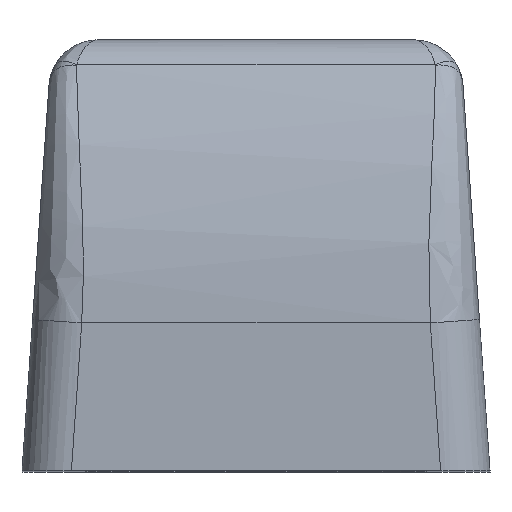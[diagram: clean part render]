
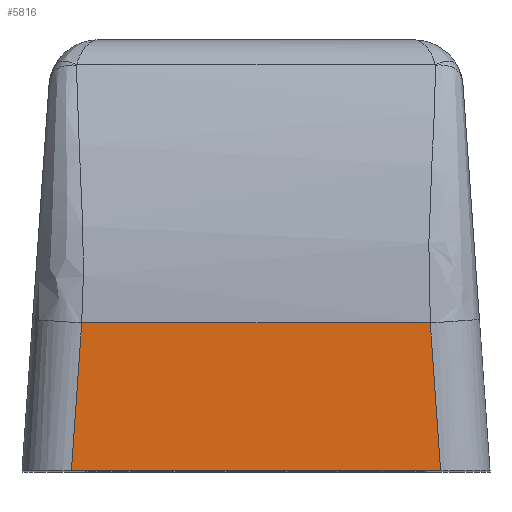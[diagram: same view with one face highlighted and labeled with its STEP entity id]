
A CAD part, top view. The second image highlights one B-rep face of the part: STEP entity #5816.
In plain terms, the highlighted planar face has unit normal (0, 0, 1).
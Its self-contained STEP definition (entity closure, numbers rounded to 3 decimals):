
#25 = EDGE_CURVE ( 'NONE', #2185, #2368, #1929, .T. ) ;
#59 = EDGE_CURVE ( 'NONE', #1502, #2368, #4099, .T. ) ;
#533 = CARTESIAN_POINT ( 'NONE',  ( -14.151, 12., 33. ) ) ;
#547 = VECTOR ( 'NONE', #5533, 1000. ) ;
#842 = EDGE_CURVE ( 'NONE', #1502, #4063, #5304, .T. ) ;
#947 = VECTOR ( 'NONE', #3686, 1000. ) ;
#1095 = CARTESIAN_POINT ( 'NONE',  ( 19., 2., 33. ) ) ;
#1502 = VERTEX_POINT ( 'NONE', #4478 ) ;
#1778 = CARTESIAN_POINT ( 'NONE',  ( 14.711, 4., 33. ) ) ;
#1929 = B_SPLINE_CURVE_WITH_KNOTS ( 'NONE', 3,
 ( #533, #4097, #4139, #4175 ),
 .UNSPECIFIED., .F., .F.,
 ( 4, 4 ),
 ( 0., 0.326 ),
 .UNSPECIFIED. ) ;
#1936 = DIRECTION ( 'NONE',  ( -1., 0., 0. ) ) ;
#2185 = VERTEX_POINT ( 'NONE', #3950 ) ;
#2338 = EDGE_CURVE ( 'NONE', #4063, #2185, #5349, .T. ) ;
#2362 = DIRECTION ( 'NONE',  ( 0., 0., -1. ) ) ;
#2368 = VERTEX_POINT ( 'NONE', #4668 ) ;
#2774 = AXIS2_PLACEMENT_3D ( 'NONE', #1095, #2362, #1936 ) ;
#2775 = CARTESIAN_POINT ( 'NONE',  ( 19., 0., 33. ) ) ;
#3173 = EDGE_LOOP ( 'NONE', ( #4852, #4068, #5242, #3589 ) ) ;
#3295 = CARTESIAN_POINT ( 'NONE',  ( 19., 12., 33. ) ) ;
#3589 = ORIENTED_EDGE ( 'NONE', *, *, #842, .T. ) ;
#3686 = DIRECTION ( 'NONE',  ( -1., 0., 0. ) ) ;
#3751 = CARTESIAN_POINT ( 'NONE',  ( 14.151, 12., 33. ) ) ;
#3950 = CARTESIAN_POINT ( 'NONE',  ( -14.151, 12., 33. ) ) ;
#4063 = VERTEX_POINT ( 'NONE', #3751 ) ;
#4068 = ORIENTED_EDGE ( 'NONE', *, *, #25, .T. ) ;
#4097 = CARTESIAN_POINT ( 'NONE',  ( -14.431, 8., 33. ) ) ;
#4099 = LINE ( 'NONE', #2775, #947 ) ;
#4139 = CARTESIAN_POINT ( 'NONE',  ( -14.711, 4., 33. ) ) ;
#4175 = CARTESIAN_POINT ( 'NONE',  ( -14.99, 0., 33. ) ) ;
#4466 = CARTESIAN_POINT ( 'NONE',  ( 14.99, 0., 33. ) ) ;
#4478 = CARTESIAN_POINT ( 'NONE',  ( 14.99, 0., 33. ) ) ;
#4668 = CARTESIAN_POINT ( 'NONE',  ( -14.99, 0., 33. ) ) ;
#4698 = PLANE ( 'NONE',  #2774 ) ;
#4852 = ORIENTED_EDGE ( 'NONE', *, *, #2338, .T. ) ;
#5219 = FACE_OUTER_BOUND ( 'NONE', #3173, .T. ) ;
#5242 = ORIENTED_EDGE ( 'NONE', *, *, #59, .F. ) ;
#5304 = B_SPLINE_CURVE_WITH_KNOTS ( 'NONE', 3,
 ( #4466, #1778, #5341, #5444 ),
 .UNSPECIFIED., .F., .F.,
 ( 4, 4 ),
 ( 0.674, 1. ),
 .UNSPECIFIED. ) ;
#5341 = CARTESIAN_POINT ( 'NONE',  ( 14.431, 8., 33. ) ) ;
#5349 = LINE ( 'NONE', #3295, #547 ) ;
#5444 = CARTESIAN_POINT ( 'NONE',  ( 14.151, 12., 33. ) ) ;
#5533 = DIRECTION ( 'NONE',  ( -1., 0., 0. ) ) ;
#5816 = ADVANCED_FACE ( 'NONE', ( #5219 ), #4698, .F. ) ;
